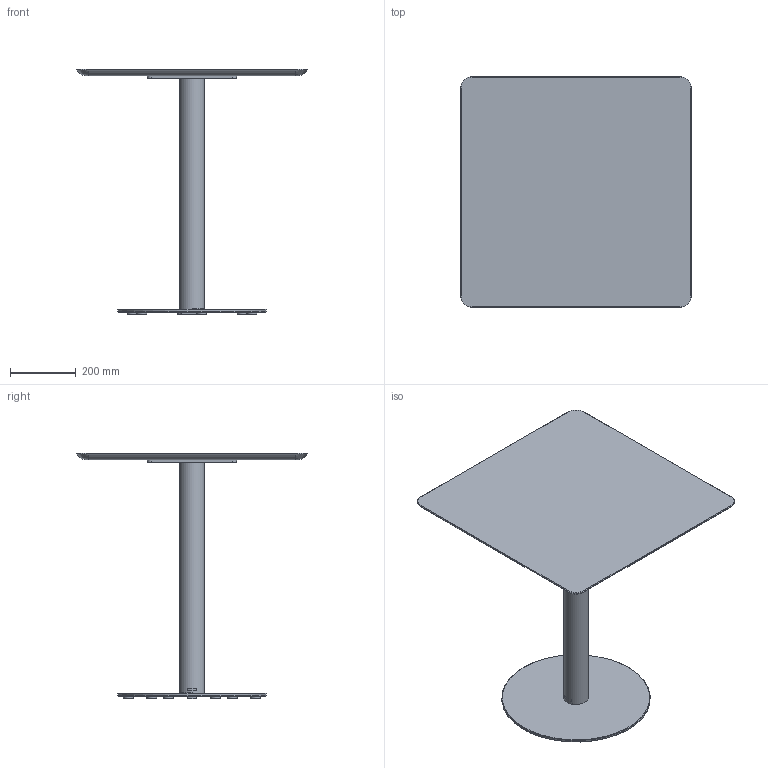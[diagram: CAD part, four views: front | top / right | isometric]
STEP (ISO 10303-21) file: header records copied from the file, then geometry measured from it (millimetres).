
FILE_DESCRIPTION( ('This file contains a STEP AP42 implementation' ,'as created by ZW3D STEP Interface translator.') ,'2;1' );
FILE_NAME( 'Henri - B_Rond - F3 - M3 - 700 x 700 x 750.stp' ,'24 912.154026', (''), ('ZWCAD Software Co.'), 'Version 1.0', 'ZW3D to STEP translator', '' );
FILE_SCHEMA(('AUTOMOTIVE_DESIGN { 1 0 10303 214 1 1 1 1 }'));
Length unit declared in the file: millimetre
Products named in the file (14): 0; PIED BISTROT PARAMETRIQUE_; COLONNE ACIER Ø76 V.02_; TUB-D076-02_; PLA-R76B-01_; SOCLE ACIER C Ø450 V.02_; SCL-D450-02_; PLA-R30A-01_; PLA-R30A-01; CROIX ACIER 370 V.02_; CRX-X370-02_; WUERTH 0276063020 Euro-screw 6.3x2 Verzinkt_; PLATEAU BISTROT PARAMETRIQUE_; insert_m6_13_
Assembly tree (24 placements, depth 3):
  0
  PIED BISTROT PARAMETRIQUE_
    COLONNE ACIER Ø76 V.02_
      TUB-D076-02_
      PLA-R76B-01_  x2
    SOCLE ACIER C Ø450 V.02_
      SCL-D450-02_
      PLA-R30A-01_
      PLA-R30A-01  x5
    CROIX ACIER 370 V.02_
      CRX-X370-02_
    WUERTH 0276063020 Euro-screw 6.3x2 Verzinkt_
    PLATEAU BISTROT PARAMETRIQUE_
      insert_m6_13_  x8
Bounding box: 700 x 700 x 744 mm (x, y, z)
Volume: 11581481.9 mm3; surface area: 1853994 mm2
Topology: 21 solids, 21 shells, 524 faces, 1273 edges, 802 vertices
Faces by surface type: plane 250, bspline 125, cylinder 103, cone 45, torus 1
Full cylindrical faces by diameter (mm): 4.88 x1, 6 x8, 6.3 x1, 8 x47, 12 x2, 14 x2, 30 x6, 72 x1, 76 x1, 450 x1
Entity records: 11758 total; most frequent: CARTESIAN_POINT 3334, ORIENTED_EDGE 1526, DIRECTION 1424, EDGE_CURVE 763, VERTEX_POINT 490, AXIS2_PLACEMENT_3D 478, VECTOR 468, LINE 468
